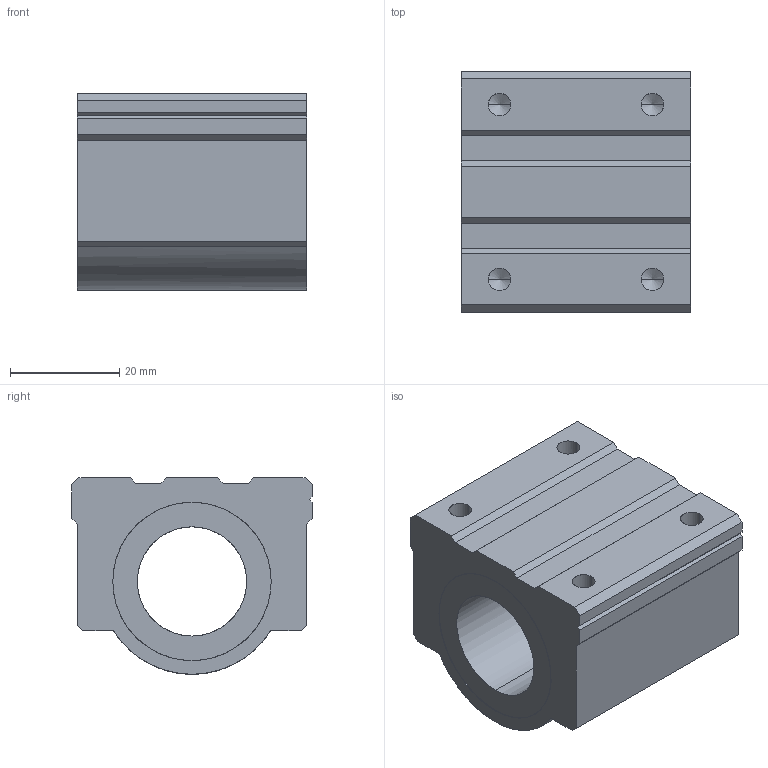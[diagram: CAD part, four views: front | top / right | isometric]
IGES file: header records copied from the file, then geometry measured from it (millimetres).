
Global section: file name: No Iges File Name specified; native system: AutoDesk Inventor R10; preprocessor: AutoDesk Inventor Iges Exporter R10; author: No Author specified; organization: No Organization specified; date: 20101208.101107; units: millimetre
Bounding box: 42 x 44 x 36 mm (x, y, z)
Surface area: 11444.9 mm2 (no closed solid volume)
Topology: 0 solids, 0 shells, 54 faces, 360 edges, 352 vertices
Faces by surface type: bspline 54
